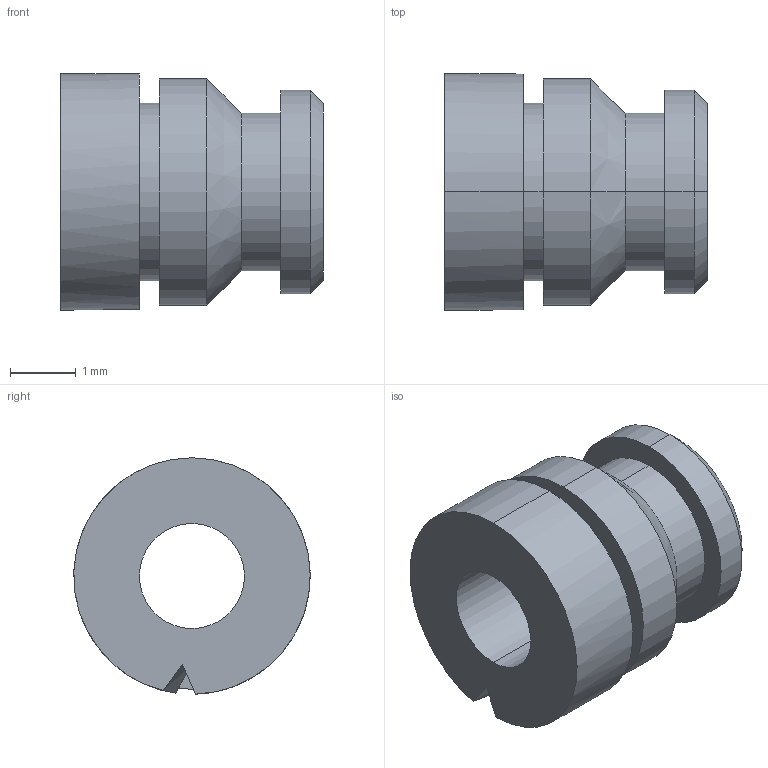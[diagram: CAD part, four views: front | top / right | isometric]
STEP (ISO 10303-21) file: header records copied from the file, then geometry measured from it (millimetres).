
FILE_DESCRIPTION (( 'STEP AP203' ), '1' );
FILE_NAME ('FSUK-HIS-M02-S.STEP', '2021-04-15T08:34:24', ( '' ), ( '' ), 'SwSTEP 2.0', 'SolidWorks 2021', '' );
FILE_SCHEMA (( 'CONFIG_CONTROL_DESIGN' ));
Length unit declared in the file: millimetre
Products named in the file (1): FSUK-HIS-M02-S
Bounding box: 4 x 3.6 x 3.6 mm (x, y, z)
Volume: 23.4 mm3; surface area: 85.1 mm2
Topology: 1 solids, 1 shells, 25 faces, 52 edges, 31 vertices
Faces by surface type: cylinder 12, cone 6, plane 5, bspline 2
Entity records: 1212 total; most frequent: CARTESIAN_POINT 601, DIRECTION 121, ORIENTED_EDGE 104, AXIS2_PLACEMENT_3D 52, EDGE_CURVE 52, VERTEX_POINT 31, EDGE_LOOP 29, CIRCLE 28
